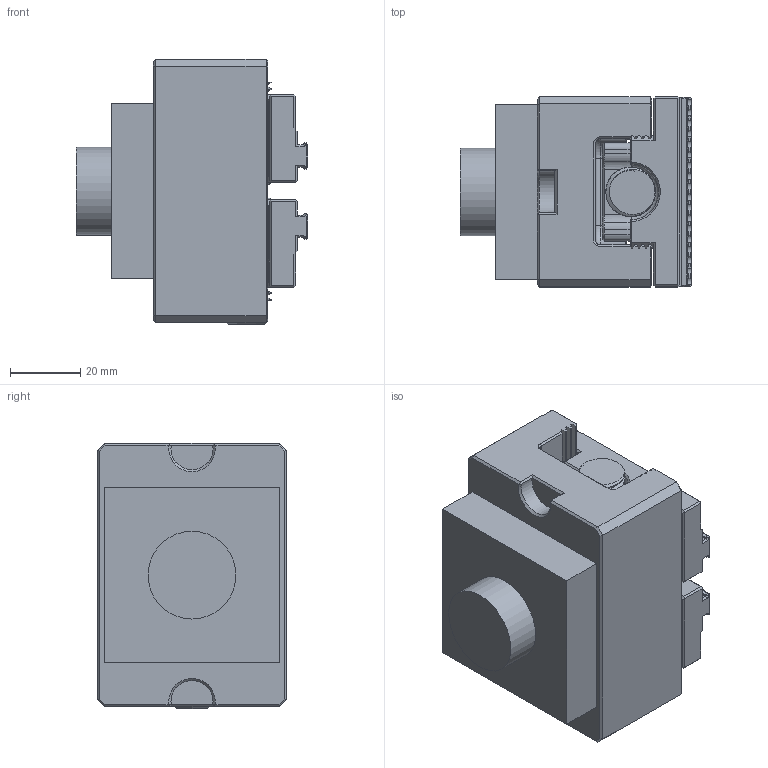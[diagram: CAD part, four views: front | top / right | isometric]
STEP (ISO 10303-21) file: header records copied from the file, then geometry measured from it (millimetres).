
FILE_DESCRIPTION(/* description */ ('STEP AP242 Edition 2','CAx-IF Rec.Pracs.---Representation and Presentation of Product Manufacturing Information (PMI)---4.0---2014-10-13','CAx-IF Rec.Pracs.---3D Tessellated Geometry---0.4---2014-09-14','2;1','CAx-IF Rec.Pracs.---User Defined Attributes---1.5---2016-08-15'),/* implementation_level */ '2;1');
FILE_NAME(/* name */ 'H54-8-55',/* time_stamp */ '2026-05-30T02:01:14Z',/* author */ (''),/* organization */ (''),/* preprocessor_version */ 'ST-DEVELOPER v20',/* originating_system */ 'ONSHAPE BY PTC INC, 1.215',/* authorisation */ ' ');
FILE_SCHEMA (('AP242_MANAGED_MODEL_BASED_3D_ENGINEERING_MIM_LF { 1 0 10303 442 3 1 4 }'));
Length unit declared in the file: metre
Products named in the file (5): Adapter; Jaw B; Threaded bolt; Jaw A; Body
Bounding box: 66 x 54 x 75.5 mm (x, y, z)
Volume: 167068.2 mm3; surface area: 46803.3 mm2
Topology: 5 solids, 5 shells, 916 faces, 2474 edges, 1590 vertices
Faces by surface type: plane 563, cylinder 252, cone 67, bspline 20, torus 14
Full cylindrical faces by diameter (mm): 4.2 x4, 4.5 x4, 5 x12, 6 x4, 8.7 x1, 9 x4, 10 x1, 14 x24, 25 x1
Entity records: 30397 total; most frequent: CARTESIAN_POINT 8731, ORIENTED_EDGE 4602, DIRECTION 4206, EDGE_CURVE 2301, VERTEX_POINT 1511, LINE 1510, VECTOR 1510, AXIS2_PLACEMENT_3D 1348
